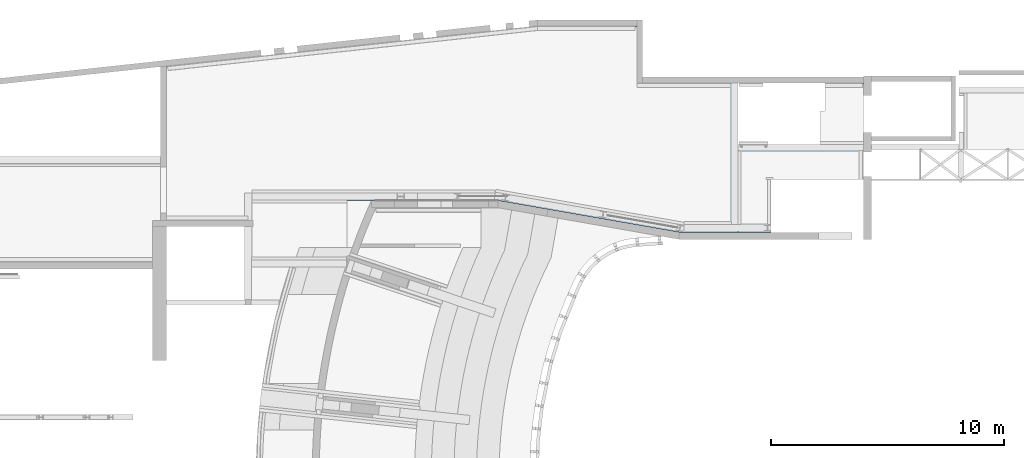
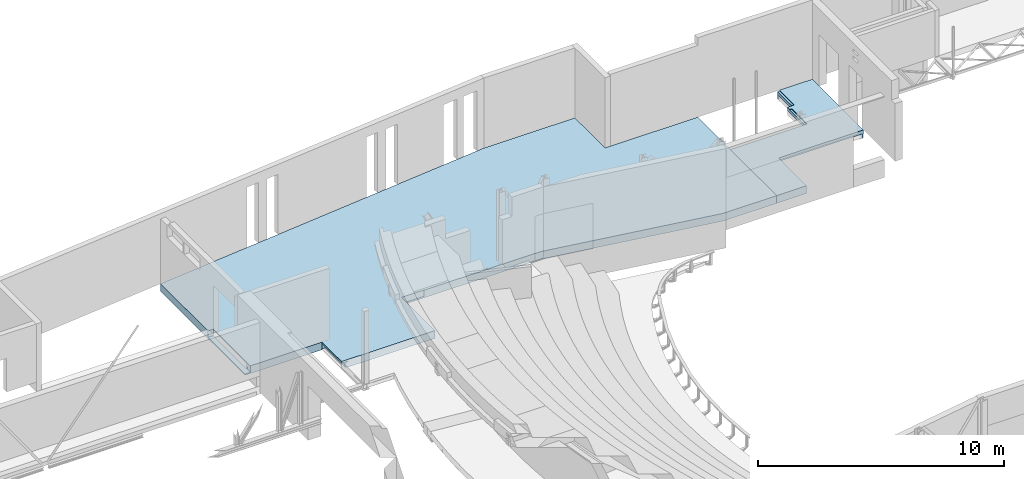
# One storey, part 63 of 68: 2 slabs.
"""IFC2X3 building model written with IfcOpenShell, lengths in millimetres."""

from ifc_helpers import new_model, entity, si_unit, converted_unit, derived_unit, direction, frame, origin, place, context, subcontext, project, spatial, faceted_brep, material, type_object, element, save


model = new_model("IFC2X3")

# Units and contexts
model_context = context("Model", 3, precision=0.01, world=origin(), true_north=direction((6.12303176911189e-17, 1.0)))
body_context = subcontext(model_context, "Body", "Model", "MODEL_VIEW")
ifc_project = project(units=[si_unit("LENGTHUNIT", "METRE", prefix="MILLI"), si_unit("AREAUNIT", "SQUARE_METRE", prefix="MILLI"), si_unit("VOLUMEUNIT", "CUBIC_METRE"), converted_unit("PLANEANGLEUNIT", "DEGREE", entity("IfcRatioMeasure", 0.0174532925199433), si_unit("PLANEANGLEUNIT", "RADIAN"), dimensions=[0, 0, 0, 0, 0, 0, 0]), si_unit("MASSUNIT", "GRAM", prefix="KILO"), derived_unit("MASSDENSITYUNIT", [(si_unit("MASSUNIT", "GRAM", prefix="KILO"), 1), (si_unit("LENGTHUNIT", "METRE"), -3)]), derived_unit("MOMENTOFINERTIAUNIT", [(si_unit("LENGTHUNIT", "METRE"), 4)]), si_unit("TIMEUNIT", "SECOND"), si_unit("FREQUENCYUNIT", "HERTZ"), si_unit("THERMODYNAMICTEMPERATUREUNIT", "DEGREE_CELSIUS"), derived_unit("THERMALTRANSMITTANCEUNIT", [(si_unit("MASSUNIT", "GRAM", prefix="KILO"), 1), (si_unit("THERMODYNAMICTEMPERATUREUNIT", "KELVIN"), -1), (si_unit("TIMEUNIT", "SECOND"), -3)]), derived_unit("VOLUMETRICFLOWRATEUNIT", [(si_unit("LENGTHUNIT", "METRE"), 3), (si_unit("TIMEUNIT", "SECOND"), -1)]), si_unit("ELECTRICCURRENTUNIT", "AMPERE"), si_unit("ELECTRICVOLTAGEUNIT", "VOLT"), si_unit("POWERUNIT", "WATT"), si_unit("FORCEUNIT", "NEWTON", prefix="KILO"), si_unit("ILLUMINANCEUNIT", "LUX"), si_unit("LUMINOUSFLUXUNIT", "LUMEN"), si_unit("LUMINOUSINTENSITYUNIT", "CANDELA"), derived_unit("USERDEFINED", [(si_unit("MASSUNIT", "GRAM", prefix="KILO"), -1), (si_unit("LENGTHUNIT", "METRE"), -2), (si_unit("TIMEUNIT", "SECOND"), 3), (si_unit("LUMINOUSFLUXUNIT", "LUMEN"), 1)]), derived_unit("LINEARVELOCITYUNIT", [(si_unit("LENGTHUNIT", "METRE"), 1), (si_unit("TIMEUNIT", "SECOND"), -1)]), si_unit("PRESSUREUNIT", "PASCAL"), derived_unit("USERDEFINED", [(si_unit("LENGTHUNIT", "METRE"), -2), (si_unit("MASSUNIT", "GRAM", prefix="KILO"), 1), (si_unit("TIMEUNIT", "SECOND"), -2)]), derived_unit("LINEARFORCEUNIT", [(si_unit("MASSUNIT", "GRAM", prefix="KILO"), 1), (si_unit("LENGTHUNIT", "METRE"), 1), (si_unit("TIMEUNIT", "SECOND"), -2), (si_unit("LENGTHUNIT", "METRE"), -1)]), derived_unit("PLANARFORCEUNIT", [(si_unit("MASSUNIT", "GRAM", prefix="KILO"), 1), (si_unit("LENGTHUNIT", "METRE"), 1), (si_unit("TIMEUNIT", "SECOND"), -2), (si_unit("LENGTHUNIT", "METRE"), -2)])], contexts=[model_context])

# Site, building, storey
site_placement = place(None, origin())
site = spatial("IfcSite", under=ifc_project, at=site_placement, Name="Theater aan de Parade", CompositionType="ELEMENT")
building_placement = place(site_placement, origin())
building = spatial("IfcBuilding", under=site, at=building_placement, Name="Theater aan de Parade", CompositionType="ELEMENT")
storey_placement = place(building_placement, frame((0.0, 0.0, 8750.0)))
storey = spatial("IfcBuildingStorey", under=building, at=storey_placement, Name="02 tweede verdieping", CompositionType="ELEMENT", Elevation=8750.0)

# Slabs
ifc_material = material(Name="00_PBT_MAT_beton t.p.g._C30/37")
slab_type_1 = type_object("IfcSlabType", Name="Floor:28_PBT_FL_druklaag_d=180 (=380)_C30/37", PredefinedType="FLOOR")
slab_1_placement = place(storey_placement, origin())
element("IfcSlab", 1, at=slab_1_placement, inside=storey, type_object=slab_type_1, material=ifc_material, Name="Floor:28_PBT_FL_druklaag_d=180 (=380)_C30/37", ObjectType="Floor:28_PBT_FL_druklaag_d=180 (=380)_C30/37", PredefinedType="FLOOR", context=body_context, shape_type="Brep", body=[
    faceted_brep([(67306.2561009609, 46317.5638256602, -460.0), (62003.8822563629, 46317.5638256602, -460.0), (62003.8822563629, 43205.0, -460.0), (63231.2592599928, 43205.0, -460.0), (63341.2592599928, 43205.0, -460.0), (63341.2592599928, 45107.5638256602, -460.0), (63366.2592599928, 45107.5638256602, -460.0), (63366.2592599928, 43182.5638256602, -460.0), (63381.2592599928, 43182.5638256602, -460.0), (63381.2592599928, 42850.0, -460.0), (61983.8822563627, 42850.0, -460.0), (61983.8822563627, 43185.0, -460.0), (61983.8822563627, 46626.8631171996, -460.0), (65486.1304005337, 46626.8631171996, -460.0), (65486.1304005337, 46646.8631171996, -460.0), (67356.256100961, 46646.8631171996, -460.0), (67356.256100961, 46366.8631171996, -460.0), (67330.7060005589, 46366.8631171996, -460.0), (67330.7060005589, 45117.5638256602, -460.0), (67306.2561009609, 45117.5638256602, -460.0), (67323.8822563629, 49261.9979908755, -460.0), (67356.256100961, 49261.9979908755, -460.0), (67356.256100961, 49221.5644848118, -460.0), (65713.8822564, 49221.5644848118, -460.0), (65713.8822564, 49236.4478904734, -460.0), (67323.8822563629, 49236.4478904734, -460.0), (65486.1304005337, 46646.8631171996, -260.0), (65486.1304005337, 48051.9979908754, -260.0), (65713.8822564, 48051.9979908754, -260.0), (65713.8822564, 49221.5644848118, -260.0), (67356.256100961, 49221.5644848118, -260.0), (67356.2561009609, 46646.8631171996, -260.0), (62003.8822563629, 46317.5638256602, -260.0), (67306.2561009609, 46317.5638256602, -260.0), (67306.2561009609, 45117.5638256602, -260.0), (63466.2591599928, 45117.5638256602, -260.0), (63466.2591599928, 45207.5638256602, -260.0), (63166.2591599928, 45207.5638256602, -260.0), (63166.2591599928, 45117.5638256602, -260.0), (63166.2591599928, 45107.5638256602, -260.0), (63341.2592599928, 45107.5638256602, -260.0), (63341.2592599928, 43205.0, -260.0), (62003.8822563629, 43205.0, -260.0), (61983.8822563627, 42850.0, -80.0), (63381.2592599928, 42850.0, -80.0), (63381.2592599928, 45117.5638256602, -80.0), (67356.256100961, 45117.5638256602, -80.0), (67356.256100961, 49261.9979908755, -80.0), (65813.8822564, 49261.9979908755, -80.0), (65813.8822564, 48051.9979908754, -80.0), (65486.1304005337, 48051.9979908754, -80.0), (65486.1304005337, 47866.8631171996, -80.0), (65586.1304005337, 47866.8631171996, -80.0), (65586.1304005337, 46626.8631171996, -80.0), (61983.8822563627, 46626.8631171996, -80.0), (65586.1304005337, 46626.8631171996, -110.0), (65486.1304005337, 46626.8631171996, -110.0), (65486.1304005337, 47866.8631171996, -110.0), (67323.8822563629, 49261.9979908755, -285.0), (65713.8822564, 49261.9979908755, -285.0), (65713.8822564, 49261.9979908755, -110.0), (65813.8822564, 49261.9979908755, -110.0), (67356.256100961, 45117.5638256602, -285.0), (67356.256100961, 46366.8631171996, -285.0), (67332.7582649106, 45117.5638256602, -457.033797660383), (67334.8105292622, 45117.5638256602, -454.067595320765), (67335.5333151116, 45117.5638256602, -450.533797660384), (67336.2561009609, 45117.5638256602, -447.0), (67336.2561009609, 45117.5638256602, -294.0), (67338.8921399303, 45117.5638256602, -287.636038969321), (67345.2561009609, 45117.5638256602, -285.0), (63381.2592599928, 45117.5638256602, -250.0), (63466.2591599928, 45117.5638256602, -250.0), (63381.2592599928, 45107.5638256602, -250.0), (63381.2592599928, 43182.5638256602, -225.0), (63381.2592599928, 45107.5638256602, -225.0), (67345.2561009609, 46366.8631171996, -285.0), (67338.8921399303, 46366.8631171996, -287.636038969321), (67336.2561009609, 46366.8631171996, -294.0), (67336.2561009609, 46366.8631171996, -447.0), (67335.5330386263, 46366.8631171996, -450.534445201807), (67334.8099762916, 46366.8631171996, -454.068890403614), (67332.39028236, 46366.8631171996, -457.565857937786), (67323.8822563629, 49250.9979908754, -285.0), (65713.8822564, 49250.9979908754, -285.0), (67323.8822563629, 49239.0617688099, -456.222395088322), (67323.8822563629, 49240.5518662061, -454.068890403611), (67323.8822563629, 49241.2749285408, -450.534445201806), (67323.8822563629, 49241.9979908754, -447.0), (67323.8822563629, 49241.9979908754, -294.0), (67323.8822563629, 49244.6340298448, -287.636038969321), (65713.8822564, 49241.9979908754, -447.0), (65713.8822564, 49241.9979908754, -294.0), (65713.8822564, 49240.5524191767, -454.067595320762), (65713.8822564, 49238.5001548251, -457.033797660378), (65713.8822564, 49241.2752050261, -450.533797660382), (65713.8822564, 49244.6340298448, -287.63603896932), (63466.2591599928, 45207.5638256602, -250.0), (63166.2591599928, 45207.5638256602, -250.0), (63166.2591599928, 45107.5638256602, -250.0), (63366.2592599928, 45107.5638256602, -250.0), (63366.2592599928, 45107.5638256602, -225.0), (63366.2592599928, 43182.5638256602, -225.0), (65586.1304005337, 47866.8631171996, -110.0), (65713.8822564, 48051.9979908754, -110.0), (65813.8822564, 48051.9979908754, -110.0)], [[[0, 1, 2, 3, 4, 5, 6, 7, 8, 9, 10, 11, 12, 13, 14, 15, 16, 17, 18, 19]], [[20, 21, 22, 23, 24, 25]], [[26, 27, 28, 29, 30, 31]], [[32, 33, 34, 35, 36, 37, 38, 39, 40, 41, 42]], [[43, 44, 45, 46, 47, 48, 49, 50, 51, 52, 53, 54]], [[11, 10, 43, 54, 12]], [[12, 54, 53, 55, 56, 13]], [[14, 13, 56, 57, 51, 50, 27, 26]], [[58, 59, 60, 61, 48, 47, 21, 20]], [[15, 31, 30, 22, 21, 47, 46, 62, 63, 16]], [[19, 18, 64, 65, 66, 67, 68, 69, 70, 62, 46, 45, 71, 72, 35, 34]], [[73, 71, 45, 44, 9, 8, 74, 75]], [[10, 9, 44, 43]], [[42, 2, 1, 32]], [[32, 1, 0, 33]], [[30, 29, 23, 22]], [[40, 5, 4, 41]], [[42, 41, 4, 3, 2]], [[34, 33, 0, 19]], [[26, 31, 15, 14]], [[16, 63, 76, 77, 78, 79, 80, 81, 82, 17]], [[68, 67, 79, 78]], [[64, 81, 65]], [[64, 18, 82]], [[18, 17, 82]], [[66, 65, 80]], [[79, 67, 66]], [[79, 66, 80]], [[65, 81, 80]], [[81, 64, 82]], [[62, 70, 76, 63]], [[58, 83, 84, 59]], [[77, 69, 68, 78]], [[76, 70, 69, 77]], [[20, 25, 85, 86, 87, 88, 89, 90, 83, 58]], [[89, 88, 91, 92]], [[86, 85, 93]], [[94, 25, 24]], [[94, 85, 25]], [[87, 93, 95]], [[95, 91, 88]], [[87, 95, 88]], [[87, 86, 93]], [[94, 93, 85]], [[89, 92, 96, 90]], [[96, 84, 83, 90]], [[72, 97, 36, 35]], [[38, 37, 98, 99, 39]], [[36, 97, 98, 37]], [[71, 73, 100, 99, 98, 97, 72]], [[40, 39, 99, 100, 6, 5]], [[73, 75, 101, 100]], [[7, 102, 74, 8]], [[101, 75, 74, 102]], [[100, 101, 102, 7, 6]], [[103, 57, 56, 55]], [[61, 60, 104, 105]], [[57, 103, 52, 51]], [[103, 55, 53, 52]], [[61, 105, 49, 48]], [[27, 50, 49, 105, 104, 28]], [[23, 29, 28, 104, 60, 59, 84, 96, 92, 91, 95, 93, 94, 24]]]),
])
slab_type_2 = type_object("IfcSlabType", Name="Floor:28_PBT_FL_druklaag_d=60 (=380)_C30/37", PredefinedType="FLOOR")
slab_2_placement = place(storey_placement, origin())
element("IfcSlab", 2, at=slab_2_placement, inside=storey, type_object=slab_type_2, material=ifc_material, Name="Floor:28_PBT_FL_druklaag_d=60 (=380)_C30/37", ObjectType="Floor:28_PBT_FL_druklaag_d=60 (=380)_C30/37", PredefinedType="FLOOR", context=body_context, shape_type="Brep", body=[
    faceted_brep([(45194.5631615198, 44225.0, -460.0), (41133.8581275, 44225.0, -460.0), (41133.8581275, 41680.0, -460.0), (45185.0, 41680.0, -460.0), (45185.0, 41510.0, -460.0), (41113.8581275, 41510.0, -460.0), (41113.8581275, 44545.0, -460.0), (41126.5581275, 44545.0, -460.0), (41126.5581275, 44565.0, -460.0), (51544.4690046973, 44565.0, -460.0), (51544.4690046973, 44422.782472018, -460.0), (51574.0378713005, 44591.7474240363, -460.0), (59653.816682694, 43177.7861320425, -460.0), (59653.816682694, 43205.0, -460.0), (61663.8822563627, 43205.0, -460.0), (61663.8822563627, 49221.564484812, -460.0), (57637.031563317, 49221.564484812, -460.0), (57637.031563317, 49236.4478904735, -460.0), (61663.8822563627, 49236.4478904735, -460.0), (61663.8822563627, 49261.9979908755, -460.0), (61683.8822563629, 49261.9979908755, -460.0), (61683.8822563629, 43185.0, -460.0), (61983.8822563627, 43185.0, -460.0), (61983.8822563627, 42850.0, -460.0), (59467.48061465, 42850.0, -460.0), (51696.0520432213, 44210.0, -460.0), (45194.5631615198, 44210.0, -460.0), (37203.8581300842, 49956.182685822, -460.0), (37453.8581300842, 49983.3096390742, -460.0), (37501.7730142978, 49988.5087783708, -460.0), (37504.5292215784, 49963.1077753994, -460.0), (43945.6404549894, 50662.0186686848, -460.0), (48658.5176047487, 51173.4026611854, -460.0), (53371.394754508, 51684.7866536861, -460.0), (53368.6385472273, 51710.1876566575, -460.0), (53371.6932212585, 51710.519112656, -460.0), (53374.7658254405, 51710.519112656, -460.0), (53374.7658254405, 51684.969012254, -460.0), (57558.9437404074, 51684.969012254, -460.0), (57558.9437404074, 51710.519112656, -460.0), (57637.031563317, 51710.519112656, -460.0), (57637.031563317, 51660.519112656, -460.0), (53374.3979784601, 51660.519112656, -460.0), (37453.8581300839, 49933.0161517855, -460.0), (37453.8581300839, 43400.0, -460.0), (40793.8581275, 43400.0, -460.0), (40793.8581275, 44545.0, -460.0), (40813.8581275, 44545.0, -460.0), (40813.8581275, 43375.5501004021, -460.0), (37453.8581300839, 43375.5501004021, -460.0), (37453.8581300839, 43350.0, -460.0), (40813.8581275, 43350.0, -460.0), (40813.8581275, 43100.0, -460.0), (37203.8581300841, 43100.0, -460.0), (37203.8581300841, 43350.0, -460.0), (45185.0, 41680.0, -140.0), (41133.8581275, 41680.0, -140.0), (41133.8581275, 44225.0, -140.0), (45194.5631615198, 44225.0, -140.0), (45194.5631615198, 41510.0, -140.0), (45185.0, 41510.0, -140.0), (37453.8581300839, 49933.0161517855, -140.0), (53374.3979784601, 51660.519112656, -140.0), (57637.031563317, 51660.519112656, -140.0), (57637.031563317, 49261.9979908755, -140.0), (57637.031563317, 49221.564484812, -140.0), (61663.8822563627, 49221.564484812, -140.0), (61663.8822563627, 43205.0, -140.0), (59653.816682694, 43205.0, -140.0), (59653.816682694, 43177.7861320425, -140.0), (51574.0378713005, 44591.7474240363, -140.0), (51544.4690046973, 44422.782472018, -140.0), (51544.4690046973, 44565.0, -140.0), (41126.5581275, 44565.0, -140.0), (41126.5581275, 44545.0, -140.0), (40793.8581275, 44545.0, -140.0), (40793.8581275, 43400.0, -140.0), (37453.8581300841, 43400.0, -140.0), (37453.8581300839, 46100.0, -140.0), (40813.8581275, 44545.0, -160.0), (40813.8581275, 43100.0, -160.0), (40813.8581275, 43350.0, -441.0), (40813.8581275, 43125.0, -441.0), (40813.8581275, 43125.0, -179.0), (40813.8581275, 44545.0, -179.0), (40813.8581275, 44545.0, -441.0), (40813.8581275, 43370.0, -441.0), (40813.8581275, 43370.0, -447.0), (40813.8581275, 43370.7227858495, -450.533797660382), (40813.8581275, 43371.4455716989, -454.067595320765), (40813.8581275, 43373.4978360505, -457.033797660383), (40954.404069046, 43125.0, -423.545941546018), (40952.427039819, 43125.0, -428.318912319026), (40950.450010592, 43125.0, -433.091883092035), (40950.450010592, 43350.0, -433.091883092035), (40952.9869791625, 43350.0, -426.96709916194), (40955.5239477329, 43350.0, -420.842315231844), (40958.3581275, 43350.0, -414.0), (40958.3581275, 43125.0, -414.0), (40956.381098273, 43125.0, -418.772970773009), (40954.404069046, 43370.0, -423.545941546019), (40952.427039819, 43370.0, -428.318912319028), (40950.450010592, 43370.0, -433.091883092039), (40950.450010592, 44545.0, -433.091883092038), (40952.2332078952, 44545.0, -428.786863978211), (40954.0164051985, 44545.0, -424.481844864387), (40956.1872663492, 44545.0, -419.240922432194), (40958.3581275, 44545.0, -414.0), (40958.3581275, 43370.0, -414.0), (40956.1872663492, 43370.0, -419.240922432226), (40945.677039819, 43125.0, -435.068912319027), (40940.904069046, 43125.0, -437.045941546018), (40936.131098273, 43125.0, -439.02297077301), (40931.3581275, 43125.0, -441.0), (40931.3581275, 43350.0, -441.0), (40936.131098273, 43350.0, -439.02297077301), (40940.904069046, 43350.0, -437.045941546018), (40945.677039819, 43350.0, -435.068912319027), (40945.677039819, 43370.0, -435.068912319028), (40940.904069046, 43370.0, -437.045941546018), (40936.5990499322, 43370.0, -438.829138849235), (40931.3581275, 43370.0, -441.0), (40931.3581275, 44545.0, -441.0), (40936.131098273, 44545.0, -439.02297077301), (40940.904069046, 44545.0, -437.045941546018), (40945.677039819, 44545.0, -435.068912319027), (40996.3581275, 44545.0, -441.0), (41113.8581275, 44545.0, -441.0), (41113.8581275, 41510.0, -441.0), (40996.3581275, 41510.0, -441.0), (61983.8822563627, 46626.8631171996, -80.0), (61983.8822563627, 49261.9979908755, -80.0), (57887.0315633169, 49261.9979908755, -80.0), (57637.031563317, 49261.9979908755, -80.0), (57637.031563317, 51710.519112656, -80.0), (53371.6932212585, 51710.519112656, -80.0), (37453.8581300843, 49983.3096390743, -80.0), (37203.8581300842, 49956.182685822, -80.0), (37203.8581300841, 46100.0, -80.0), (37453.8581300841, 46100.0, -80.0), (37453.8581300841, 43350.0, -80.0), (37453.8581300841, 43100.0, -80.0), (40813.8581275, 43100.0, -80.0), (40813.8581275, 41510.0, -80.0), (45194.5631615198, 41510.0, -80.0), (45194.5631615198, 44225.0, -80.0), (46251.3115478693, 44225.0, -80.0), (46247.9175720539, 44217.5004891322, -80.0), (46244.5257586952, 44210.0, -80.0), (51696.0520432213, 44210.0, -80.0), (59467.48061465, 42850.0, -80.0), (61983.8822563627, 42850.0, -80.0), (53368.6385472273, 51710.1876566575, -285.0), (37501.7730142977, 49988.5087783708, -285.0), (61663.8822563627, 49261.9979908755, -285.0), (57637.031563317, 49261.9979908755, -285.0), (61983.8822563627, 49261.9979908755, -165.0), (61683.8822563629, 49261.9979908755, -165.0), (61683.8822563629, 49261.9979908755, -184.0), (61801.3822563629, 49261.9979908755, -184.0), (61806.1552271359, 49261.9979908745, -185.977029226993), (61810.9281979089, 49261.9979908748, -187.954058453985), (61815.7011686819, 49261.9979908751, -189.931087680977), (61820.4741394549, 49261.9979908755, -191.908116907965), (61822.4511686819, 49261.9979908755, -196.681087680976), (61824.4281979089, 49261.9979908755, -201.454058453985), (61826.4052271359, 49261.9979908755, -206.227029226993), (61828.3822563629, 49261.9979908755, -211.0), (61828.3822563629, 49261.9979908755, -419.0), (61815.7011686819, 49261.9979908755, -440.068912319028), (61810.9281979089, 49261.9979908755, -442.045941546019), (61806.1552271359, 49261.9979908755, -444.022970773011), (61801.3822563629, 49261.9979908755, -446.0), (61683.8822563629, 49261.9979908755, -446.0), (61826.4052271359, 49261.9979908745, -423.772970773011), (61824.4281979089, 49261.9979908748, -428.545941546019), (61822.4511686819, 49261.9979908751, -433.318912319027), (61820.4741394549, 49261.9979908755, -438.091883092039), (61983.8822563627, 46336.9979908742, -446.0), (61983.8822563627, 46336.9979908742, -184.0), (61983.8822563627, 43185.0, -184.0), (61983.8822563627, 43185.0, -165.0), (61983.8822563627, 43185.0, -446.0), (51696.0520432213, 44210.0, -240.0), (45194.5631615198, 44210.0, -380.0), (46244.5257586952, 44210.0, -380.0), (37203.8581300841, 43100.0, -400.0), (37203.8581300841, 43350.0, -400.0), (37203.8581300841, 45780.0, -400.0), (37203.8581300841, 45943.249999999, -400.0), (37203.8581300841, 46100.0, -400.0), (37203.8581300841, 46100.0, -85.0), (45185.0, 41510.0, -380.0), (40813.8581275, 41510.0, -160.0), (41113.8581275, 41510.0, -160.0), (41113.8581275, 41510.0, -179.0), (40996.3581275, 41510.0, -179.0), (40991.585156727, 41510.0, -180.977029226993), (40986.812185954, 41510.0, -182.954058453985), (40982.0392151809, 41510.0, -184.931087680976), (40977.2662444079, 41510.0, -186.908116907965), (40975.289215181, 41510.0, -191.681087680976), (40973.312185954, 41510.0, -196.454058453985), (40971.335156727, 41510.0, -201.227029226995), (40969.3581275, 41510.0, -206.0), (40969.3581275, 41510.0, -414.0), (40971.335156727, 41510.0, -418.772970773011), (40973.312185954, 41510.0, -423.545941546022), (40975.289215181, 41510.0, -428.318912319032), (40977.2662444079, 41510.0, -433.09188309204), (40982.039215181, 41510.0, -435.068912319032), (40986.812185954, 41510.0, -437.045941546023), (40991.585156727, 41510.0, -439.022970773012), (37453.8581300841, 43100.0, -400.0), (57558.9437404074, 51710.519112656, -285.0), (53374.7658254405, 51710.519112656, -285.0), (37453.8581300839, 46100.0, -400.0), (37453.8581300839, 43400.0, -400.0), (37453.8581300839, 43373.0451336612, -456.379795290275), (37453.8581300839, 43371.4461246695, -454.068890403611), (37453.8581300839, 43370.7230623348, -450.534445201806), (37453.8581300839, 43370.0, -447.0), (37453.858130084, 43370.0, -400.0), (37453.8581300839, 43350.0, -400.0), (57637.031563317, 49250.9979908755, -285.0), (57637.031563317, 49244.6340298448, -287.636038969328), (57637.031563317, 49241.9979908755, -294.0), (57637.031563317, 49241.9979908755, -447.0), (57637.031563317, 49241.2752050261, -450.53379766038), (57637.031563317, 49240.5524191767, -454.067595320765), (57637.031563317, 49238.5001548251, -457.033797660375), (40988.2420367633, 44545.0, -437.638205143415), (40982.7541405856, 44545.0, -435.365044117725), (40977.2662444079, 44545.0, -433.091883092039), (40975.2892151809, 44545.0, -428.318912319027), (40973.312185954, 44545.0, -423.545941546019), (40971.335156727, 44545.0, -418.772970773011), (40969.3581275, 44545.0, -414.0), (40969.3581275, 44545.0, -206.0), (40972.7199223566, 44545.0, -197.883909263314), (40974.9930833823, 44545.0, -192.39601308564), (40977.2662444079, 44545.0, -186.908116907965), (40982.0392151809, 44545.0, -184.931087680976), (40986.812185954, 44545.0, -182.954058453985), (40991.585156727, 44545.0, -180.977029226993), (40996.3581275, 44545.0, -179.0), (41113.8581275, 44545.0, -179.0), (41113.8581275, 44545.0, -160.0), (40931.3581275, 44545.0, -179.0), (40935.694806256, 44545.0, -180.796311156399), (40940.031485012, 44545.0, -182.592622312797), (40945.240747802, 44545.0, -184.750369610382), (40950.450010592, 44545.0, -186.908116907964), (40952.427039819, 44545.0, -191.681087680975), (40954.404069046, 44545.0, -196.454058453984), (40956.381098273, 44545.0, -201.227029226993), (40958.3581275, 44545.0, -206.0), (61663.8822563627, 49238.5380320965, -456.979304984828), (61663.8822563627, 49240.5518662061, -454.068890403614), (61663.8822563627, 49241.2749285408, -450.534445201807), (61663.8822563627, 49241.9979908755, -447.0), (61663.8822563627, 49241.9979908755, -294.0), (61663.8822563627, 49244.6340298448, -287.636038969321), (61663.8822563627, 49250.9979908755, -285.0), (45194.5631615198, 44225.0, -380.0), (37453.8581300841, 43370.0, -294.0), (37453.8581300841, 43367.3639610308, -287.63603896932), (37453.8581300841, 43361.0, -285.0), (37453.8581300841, 43350.0, -285.0), (40958.3581275, 43361.0, -285.0), (40958.3581275, 43350.0, -285.0), (53369.825168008, 51699.2518470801, -285.0), (37502.9596350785, 49977.5729687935, -285.0), (57558.9437404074, 51699.519112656, -285.0), (53374.7658254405, 51699.519112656, -285.0), (40958.3581275, 43370.0, -294.0), (40958.3581275, 43367.3639610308, -287.63603896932), (53371.1057459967, 51687.4501348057, -456.128114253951), (53370.9520396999, 51688.8666806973, -454.068890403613), (53370.8740396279, 51689.5855236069, -450.534445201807), (53370.7960395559, 51690.3043665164, -447.0), (53370.7960395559, 51690.3043665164, -294.0), (53370.5116778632, 51692.925022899, -287.636038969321), (37503.6461449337, 49971.2461446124, -287.636038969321), (37503.9305066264, 49968.6254882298, -294.0), (37503.9305066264, 49968.6254882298, -447.0), (37504.0323055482, 49967.6873168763, -451.61285100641), (37504.0865067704, 49967.1878024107, -454.068890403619), (37504.3078641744, 49965.147788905, -457.034445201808), (46929.9327819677, 50991.4203805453, -447.0), (42216.6208218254, 50479.9892077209, -447.0), (49275.3248234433, 51245.4422129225, -451.081203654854), (41546.5779653, 50404.4770342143, -456.627225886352), (46301.9362062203, 50919.6578688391, -457.798469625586), (44573.22019398, 50735.310479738, -450.707252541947), (46301.7274861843, 50921.5814187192, -454.558801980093), (42887.6260512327, 50551.4980493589, -453.698665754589), (46247.9175706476, 44217.5004860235, -380.0), (46251.3115478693, 44225.0, -380.0), (57558.9437404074, 51686.9805634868, -457.092884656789), (57558.9437404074, 51689.0729879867, -454.068890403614), (57558.9437404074, 51689.7960503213, -450.534445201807), (57558.9437404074, 51690.519112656, -447.0), (57558.9437404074, 51690.519112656, -294.0), (57558.9437404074, 51693.1551516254, -287.636038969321), (53374.7658254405, 51693.1551516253, -287.636038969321), (53374.7658254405, 51690.519112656, -294.0), (53374.7658254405, 51690.519112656, -447.0), (53374.7658254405, 51689.7960503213, -450.534445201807), (53374.7658254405, 51689.0729879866, -454.068890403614), (53374.7658254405, 51687.0210001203, -457.034445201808), (40958.3581275, 43125.0, -206.0), (40956.5618163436, 43125.0, -201.663321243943), (40954.404069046, 43125.0, -196.45405845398), (40952.427039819, 43125.0, -191.68108768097), (40950.450010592, 43125.0, -186.908116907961), (40945.677039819, 43125.0, -184.93108768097), (40940.904069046, 43125.0, -182.95405845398), (40936.131098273, 43125.0, -180.977029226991), (40931.3581275, 43125.0, -179.0), (61839.3822563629, 46336.9979908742, -419.0), (61839.3822563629, 46336.9979908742, -211.0), (61841.3592855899, 46336.9979908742, -206.227029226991), (61843.3363148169, 46336.9979908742, -201.45405845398), (61845.3133440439, 46336.9979908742, -196.68108768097), (61847.2903732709, 46336.9979908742, -191.908116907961), (61852.0633440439, 46336.9979908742, -189.931087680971), (61856.8363148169, 46336.9979908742, -187.95405845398), (61861.6092855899, 46336.9979908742, -185.97702922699), (61866.3822563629, 46336.9979908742, -184.0), (61866.3822563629, 46336.9979908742, -446.0), (61861.6092855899, 46336.9979908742, -444.02297077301), (61856.8363148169, 46336.9979908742, -442.045941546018), (61852.0633440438, 46336.9979908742, -440.068912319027), (61847.2903732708, 46336.9979908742, -438.091883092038), (61845.3133440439, 46336.9979908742, -433.318912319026), (61843.3363148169, 46336.9979908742, -428.545941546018), (61841.3592855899, 46336.9979908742, -423.77297077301), (61866.3822563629, 43185.0, -446.0), (61683.8822563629, 43185.0, -446.0), (61801.3822563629, 43185.0, -446.0), (61809.4890009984, 43185.0, -442.642076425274), (61814.9815702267, 43185.0, -440.366979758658), (61820.4741394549, 43185.0, -438.09188309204), (61822.4511686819, 43185.0, -433.318912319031), (61824.4281979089, 43185.0, -428.54594154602), (61826.4052271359, 43185.0, -423.77297077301), (61828.3822563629, 43185.0, -419.0), (61828.3822563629, 43185.0, -211.0), (61825.0243327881, 43185.0, -202.893255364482), (61822.7492361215, 43185.0, -197.400686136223), (61820.4741394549, 43185.0, -191.908116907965), (61815.7011686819, 43185.0, -189.931087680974), (61810.9281979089, 43185.0, -187.954058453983), (61806.1552271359, 43185.0, -185.977029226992), (61801.3822563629, 43185.0, -184.0), (61683.8822563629, 43185.0, -184.0), (61683.8822563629, 43185.0, -165.0), (61866.3822563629, 43185.0, -184.0), (61858.5674241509, 43185.0, -187.237009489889), (61852.9288987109, 43185.0, -189.572563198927), (61847.2903732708, 43185.0, -191.908116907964), (61845.3133440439, 43185.0, -196.681087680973), (61843.3363148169, 43185.0, -201.454058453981), (61841.3592855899, 43185.0, -206.227029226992), (61839.3822563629, 43185.0, -211.0), (61839.3822563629, 43185.0, -419.0), (61842.6192658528, 43185.0, -426.814832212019), (61844.9548195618, 43185.0, -432.453357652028), (61847.2903732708, 43185.0, -438.091883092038), (61852.0633440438, 43185.0, -440.068912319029), (61856.8363148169, 43185.0, -442.045941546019), (61861.6092855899, 43185.0, -444.02297077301)], [[[0, 1, 2, 3, 4, 5, 6, 7, 8, 9, 10, 11, 12, 13, 14, 15, 16, 17, 18, 19, 20, 21, 22, 23, 24, 25, 26]], [[27, 28, 29, 30, 31, 32, 33, 34, 35, 36, 37, 38, 39, 40, 41, 42, 43, 44, 45, 46, 47, 48, 49, 50, 51, 52, 53, 54]], [[55, 56, 57, 58, 59, 60]], [[61, 62, 63, 64, 65, 66, 67, 68, 69, 70, 71, 72, 73, 74, 75, 76, 77, 78]], [[79, 80, 52, 51, 81, 82, 83, 84]], [[85, 86, 87, 88, 89, 90, 48, 47]], [[91, 92, 93, 94, 95, 96, 97, 98, 99]], [[100, 101, 102, 103, 104, 105, 106, 107, 108, 109]], [[94, 93, 110, 111, 112, 113, 114, 115, 116, 117]], [[118, 119, 120, 121, 122, 123, 124, 125, 103, 102]], [[81, 114, 113, 82]], [[85, 122, 121, 86]], [[126, 127, 128, 129]], [[130, 131, 132, 133, 134, 135, 136, 137, 138, 139, 140, 141, 142, 143, 144, 145, 146, 147, 148, 149, 150, 151]], [[29, 28, 27, 137, 136, 135, 35, 34, 152, 153]], [[40, 134, 133, 64, 63, 41]], [[19, 154, 155, 64, 133, 132, 131, 156, 157, 158, 159, 160, 161, 162, 163, 164, 165, 166, 167, 168, 169, 170, 171, 172, 173, 20]], [[169, 174, 175, 176, 177]], [[169, 168, 174]], [[178, 179, 180, 181, 156, 131, 130, 151, 23, 22, 182]], [[24, 23, 151, 150]], [[25, 24, 150, 149, 183]], [[184, 26, 25, 183, 149, 148, 185]], [[53, 186, 187, 188, 189, 190, 191, 138, 137, 27, 54]], [[5, 4, 192, 60, 59, 144, 143, 193, 194, 195, 196, 197, 198, 199, 200, 201, 202, 203, 204, 205, 206, 207, 208, 209, 210, 211, 212, 129, 128]], [[80, 193, 143, 142]], [[186, 53, 52, 80, 142, 141, 213]], [[36, 35, 135, 134, 40, 39, 214, 215]], [[59, 58, 145, 144]], [[44, 43, 61, 78, 216, 217]], [[50, 49, 218, 219, 220, 221, 222, 223]], [[16, 65, 64, 155, 224, 225, 226, 227, 228, 229, 230, 17]], [[65, 16, 15, 66]], [[46, 75, 74, 7, 6, 127, 126, 231, 232, 233, 234, 235, 236, 237, 238, 239, 240, 241, 242, 243, 244, 245, 246, 247, 79, 84, 248, 249, 250, 251, 252, 253, 254, 255, 256, 107, 106, 105, 104, 103, 125, 124, 123, 122, 85, 47]], [[56, 2, 1, 57]], [[45, 76, 75, 46]], [[68, 13, 12, 69]], [[68, 67, 14, 13]], [[70, 11, 10, 71]], [[11, 70, 69, 12]], [[66, 15, 14, 67]], [[19, 18, 257, 258, 259, 260, 261, 262, 263, 154]], [[61, 43, 42, 62]], [[62, 42, 41, 63]], [[217, 77, 76, 45, 44]], [[184, 264, 0, 26]], [[4, 3, 55, 60, 192]], [[2, 56, 55, 3]], [[223, 222, 217, 216, 190, 189, 188, 187, 186, 213]], [[78, 139, 138, 191, 190, 216]], [[265, 266, 267, 268, 223, 213, 141, 140, 139, 78, 77, 217, 222]], [[268, 267, 269, 270]], [[152, 271, 272, 153]], [[214, 273, 274, 215]], [[154, 263, 224, 155]], [[223, 268, 270, 97, 96, 95, 94, 117, 116, 115, 114, 81, 51, 50]], [[221, 87, 86, 121, 120, 119, 118, 102, 101, 100, 109, 108, 275, 265, 222]], [[219, 218, 89]], [[90, 49, 48]], [[90, 218, 49]], [[220, 89, 88]], [[88, 87, 221]], [[220, 88, 221]], [[220, 219, 89]], [[90, 89, 218]], [[265, 275, 276, 266]], [[276, 269, 267, 266]], [[34, 33, 277, 278, 279, 280, 281, 282, 271, 152]], [[29, 153, 272, 283, 284, 285, 286, 287, 288, 30]], [[281, 280, 289, 290, 285, 284]], [[289, 280, 291]], [[277, 33, 32]], [[31, 292, 293]], [[31, 293, 32]], [[31, 30, 292]], [[291, 294, 289]], [[277, 295, 278]], [[290, 289, 294]], [[296, 295, 292]], [[277, 293, 295]], [[294, 286, 290]], [[286, 285, 290]], [[295, 294, 291]], [[291, 278, 295]], [[279, 278, 291, 280]], [[296, 287, 286]], [[32, 293, 277]], [[295, 296, 294]], [[293, 292, 295]], [[288, 287, 292, 30]], [[294, 296, 286]], [[296, 292, 287]], [[281, 284, 283, 282]], [[283, 272, 271, 282]], [[185, 297, 298, 264, 184]], [[298, 297, 147, 146]], [[297, 185, 148, 147]], [[39, 38, 299, 300, 301, 302, 303, 304, 273, 214]], [[36, 215, 274, 305, 306, 307, 308, 309, 310, 37]], [[303, 302, 307, 306]], [[309, 300, 299, 38, 37, 310]], [[301, 300, 309, 308, 307, 302]], [[303, 306, 305, 304]], [[305, 274, 273, 304]], [[261, 260, 227, 226]], [[258, 257, 229]], [[230, 18, 17]], [[230, 257, 18]], [[259, 229, 228]], [[228, 227, 260]], [[259, 228, 260]], [[259, 258, 229]], [[230, 229, 257]], [[261, 226, 225, 262]], [[225, 224, 263, 262]], [[98, 311, 312, 313, 314, 315, 316, 317, 318, 319, 83, 82, 113, 112, 111, 110, 93, 92, 91, 99]], [[248, 84, 83, 319]], [[246, 245, 196, 195]], [[251, 250, 249, 248, 319, 318, 317, 316, 315, 252]], [[314, 313, 312, 311, 256, 255, 254, 253, 252, 315]], [[256, 311, 98, 97, 270, 269, 276, 275, 108, 107]], [[127, 6, 5, 128]], [[247, 246, 195, 194]], [[211, 210, 209, 233, 232, 231, 126, 129, 212]], [[208, 207, 206, 205, 237, 236, 235, 234, 233, 209]], [[238, 237, 205, 204]], [[202, 201, 200, 241, 240, 239, 238, 204, 203]], [[199, 198, 197, 196, 245, 244, 243, 242, 241, 200]], [[79, 247, 194, 193, 80]], [[320, 321, 322, 323, 324, 325, 326, 327, 328, 329, 179, 178, 330, 331, 332, 333, 334, 335, 336, 337]], [[338, 182, 22, 21, 339, 340, 341, 342, 343, 344, 345, 346, 347, 348, 349, 350, 351, 352, 353, 354, 355, 356, 357, 181, 180, 358, 359, 360, 361, 362, 363, 364, 365, 366, 367, 368, 369, 370, 371, 372]], [[358, 180, 179, 329]], [[356, 355, 159, 158]], [[327, 326, 325, 361, 360, 359, 358, 329, 328]], [[324, 323, 322, 321, 365, 364, 363, 362, 361, 325]], [[366, 365, 321, 320]], [[336, 335, 334, 369, 368, 367, 366, 320, 337]], [[333, 332, 331, 330, 338, 372, 371, 370, 369, 334]], [[182, 338, 330, 178]], [[340, 339, 173, 172]], [[339, 21, 20, 173]], [[357, 356, 158, 157]], [[170, 169, 177, 343, 342, 341, 340, 172, 171]], [[176, 175, 174, 168, 347, 346, 345, 344, 343, 177]], [[348, 347, 168, 167]], [[165, 164, 163, 351, 350, 349, 348, 167, 166]], [[162, 161, 160, 159, 355, 354, 353, 352, 351, 163]], [[181, 357, 157, 156]], [[71, 10, 9, 72]], [[8, 7, 74, 73]], [[72, 9, 8, 73]], [[298, 146, 145, 58, 57, 1, 0, 264]]]),
])

save(model, "model.ifc")
